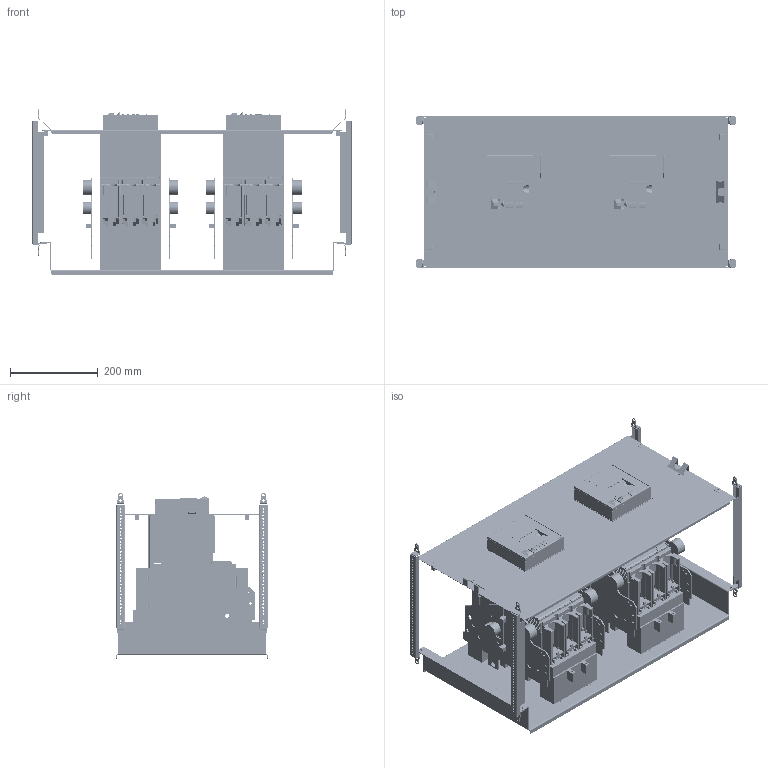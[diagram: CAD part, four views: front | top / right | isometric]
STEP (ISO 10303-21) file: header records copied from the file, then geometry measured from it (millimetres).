
FILE_DESCRIPTION(('CAx-IF Rec.Pracs.---Model Styling and Organization---1.2---2011-12-15','CAx-IF Rec.Pracs.---Geometric and Assembly Validation Properties---4.1---2014-06-16','CAx-IF Rec.Pracs.---PMI Polyline Presentation---2.0---2013-05-24'),'2;1');
FILE_NAME('R5PKIB7V81616.stp','2021-07-29T03:20:31+03:00',(''),(''),'STEP Interface 4.4 by CT CoreTechnologie','3D_Evolution4.4 by CT CoreTechnologie','');
FILE_SCHEMA(('AUTOMOTIVE_DESIGN { 1 0 10303 214 1 1 1 1 }'));
Length unit declared in the file: millimetre
Products named in the file (1): R5PKIB7V81616
Bounding box: 726 x 348 x 378.5 mm (x, y, z)
Surface area: 3727868.3 mm2 (no closed solid volume)
Topology: 0 solids, 144 shells, 12843 faces, 37807 edges, 25012 vertices
Faces by surface type: plane 8503, cylinder 3784, bspline 556
Entity records: 440117 total; most frequent: CARTESIAN_POINT 92659, ORIENTED_EDGE 75258, DIRECTION 69489, EDGE_CURVE 37641, VECTOR 29461, LINE 29461, VERTEX_POINT 25058, AXIS2_PLACEMENT_3D 20014
